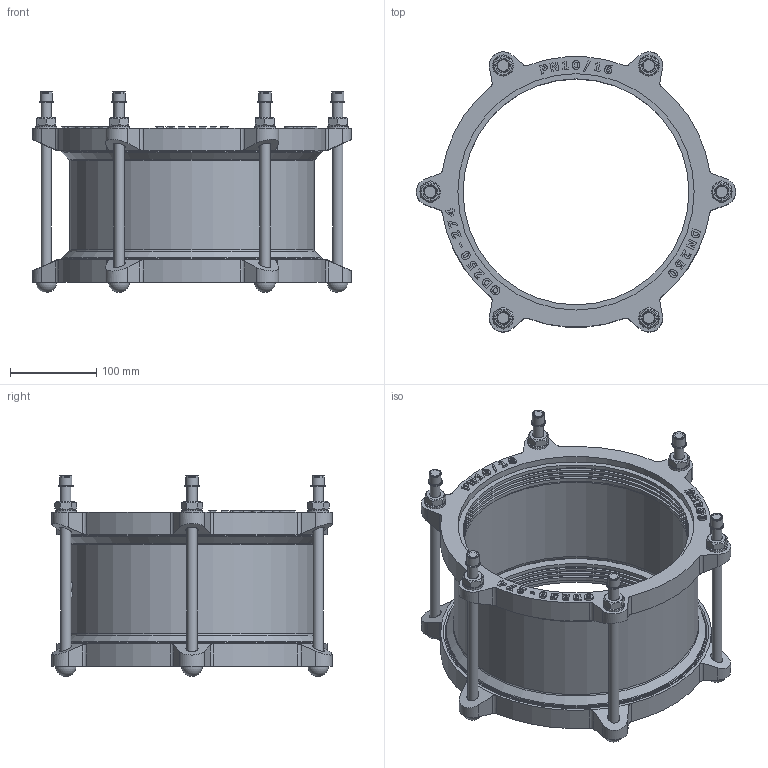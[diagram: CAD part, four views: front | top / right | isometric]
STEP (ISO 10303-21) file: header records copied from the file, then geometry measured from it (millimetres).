
FILE_DESCRIPTION(('STEP AP203'), '1');
FILE_NAME('Cîåäèíèòåëüíàÿ ìóôòà äëÿ æåñòêèõ òðóá', '', ('UNSPECIFIED'), ('UNSPECIFIED'), 'C3D Converter', 'C3D Toolkit', '');
FILE_SCHEMA(('CONFIG_CONTROL_DESIGN'));
Length unit declared in the file: millimetre
Assembly tree (29 placements, depth 2):
  (unnamed)
    (unnamed)
    (unnamed)  x6
    (unnamed)  x6
    (unnamed)  x6
    (unnamed)  x6
    (unnamed)
    (unnamed)
    (unnamed)  x2
Bounding box: 370 x 324.72 x 233.2 mm (x, y, z)
Volume: 2131884.6 mm3; surface area: 726672.7 mm2
Topology: 33 solids, 33 shells, 850 faces, 2100 edges, 1376 vertices
Faces by surface type: plane 335, extrusion 298, cylinder 139, cone 48, torus 24, sphere 6
Full cylindrical faces by diameter (mm): 12 x18, 13 x6, 14 x12, 14.4 x6, 16.8 x6, 21.172 x1, 24 x6, 262 x8, 268 x6, 274 x3, 279 x2, 284 x3, 301.5 x2, 304 x4
Entity records: 32013 total; most frequent: CARTESIAN_POINT 11732, ORIENTED_EDGE 3436, DIRECTION 2320, EDGE_CURVE 1718, VERTEX_POINT 1174, VECTOR 1112, B_SPLINE_CURVE_WITH_KNOTS 978, EDGE_LOOP 838
